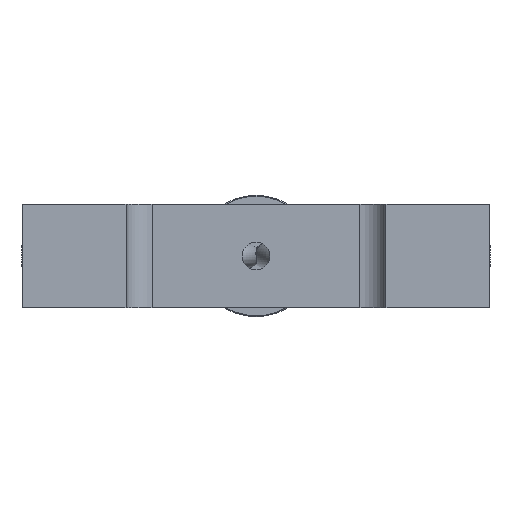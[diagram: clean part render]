
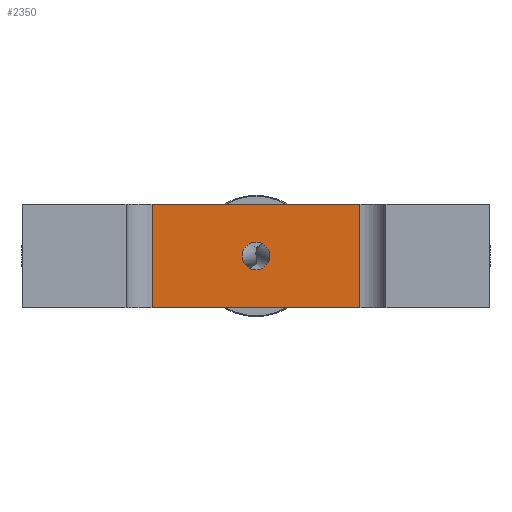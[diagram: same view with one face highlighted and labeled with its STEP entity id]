
A CAD part, left-side view. The second image highlights one B-rep face of the part: STEP entity #2350.
In plain terms, the highlighted planar face has unit normal (-1, 0, 0).
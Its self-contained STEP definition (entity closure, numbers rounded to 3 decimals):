
#112=LINE($,#4263,#200);
#114=LINE($,#4269,#202);
#115=LINE($,#4271,#203);
#116=LINE($,#4272,#204);
#200=VECTOR($,#3333,12.);
#202=VECTOR($,#3339,24.);
#203=VECTOR($,#3340,12.);
#204=VECTOR($,#3341,24.);
#307=PLANE($,#2666);
#402=FACE_BOUND($,#790,.T.);
#403=FACE_BOUND($,#791,.T.);
#790=EDGE_LOOP($,(#1908));
#791=EDGE_LOOP($,(#1909,#1910,#1911,#1912));
#958=CIRCLE($,#2655,1.6);
#1146=VERTEX_POINT($,#4244);
#1153=VERTEX_POINT($,#4260);
#1154=VERTEX_POINT($,#4262);
#1156=VERTEX_POINT($,#4268);
#1157=VERTEX_POINT($,#4270);
#1404=EDGE_CURVE($,#1146,#1146,#958,.T.);
#1411=EDGE_CURVE($,#1153,#1154,#112,.T.);
#1414=EDGE_CURVE($,#1153,#1156,#114,.T.);
#1415=EDGE_CURVE($,#1157,#1156,#115,.T.);
#1416=EDGE_CURVE($,#1157,#1154,#116,.T.);
#1908=ORIENTED_EDGE($,*,*,#1404,.T.);
#1909=ORIENTED_EDGE($,*,*,#1411,.F.);
#1910=ORIENTED_EDGE($,*,*,#1414,.T.);
#1911=ORIENTED_EDGE($,*,*,#1415,.F.);
#1912=ORIENTED_EDGE($,*,*,#1416,.T.);
#2350=ADVANCED_FACE($,(#402,#403),#307,.T.);
#2655=AXIS2_PLACEMENT_3D($,#4245,#3313,#3314);
#2666=AXIS2_PLACEMENT_3D($,#4267,#3337,#3338);
#3313=DIRECTION('center_axis',(1.,0.,0.));
#3314=DIRECTION('ref_axis',(0.,0.,-1.));
#3333=DIRECTION($,(0.,0.,1.));
#3337=DIRECTION('center_axis',(-1.,0.,0.));
#3338=DIRECTION('ref_axis',(0.,0.,1.));
#3339=DIRECTION($,(0.,-1.,0.));
#3340=DIRECTION($,(0.,0.,-1.));
#3341=DIRECTION($,(0.,1.,0.));
#4244=CARTESIAN_POINT('',(27.,0.,7.6));
#4245=CARTESIAN_POINT('Origin',(27.,0.,6.));
#4260=CARTESIAN_POINT('',(27.,12.,0.));
#4262=CARTESIAN_POINT('',(27.,12.,12.));
#4263=CARTESIAN_POINT($,(27.,12.,0.));
#4267=CARTESIAN_POINT('Origin',(27.,-15.,0.));
#4268=CARTESIAN_POINT('',(27.,-12.,0.));
#4269=CARTESIAN_POINT($,(27.,15.,0.));
#4270=CARTESIAN_POINT('',(27.,-12.,12.));
#4271=CARTESIAN_POINT($,(27.,-12.,0.));
#4272=CARTESIAN_POINT($,(27.,15.,12.));
